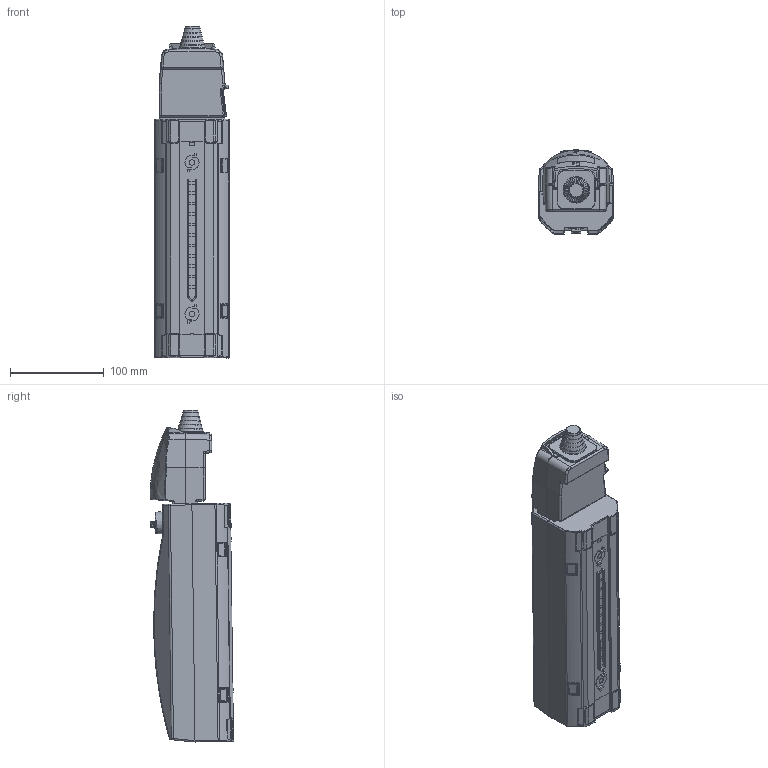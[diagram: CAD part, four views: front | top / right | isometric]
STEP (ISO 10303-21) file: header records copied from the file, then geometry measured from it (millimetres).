
FILE_DESCRIPTION(/* description */ ('Unknown'),/* implementation_level */ '2;1');
FILE_NAME(/* name */ 'OVL',/* time_stamp */ '2026-08-17T10:07:18+02:00',/* author */ ('Unknown'),/* organization */ ('Unknown'),/* preprocessor_version */ 'ST-DEVELOPER v20',/* originating_system */ 'Solid Edge',/* authorisation */ 'Unknown');
FILE_SCHEMA (('CONFIG_CONTROL_DESIGN'));
Products named in the file (7): OVL; Stekker bovenkant 2 dicht; bak smal cover_04 dicht_0; bak smal onder 2_07 dicht_0; invoerrubber dicht_0; knop dummy_0
Assembly tree (6 placements, depth 2):
  OVL
    OVL
    Stekker bovenkant 2 dicht
    bak smal cover_04 dicht_0
    bak smal onder 2_07 dicht_0
    invoerrubber dicht_0
    knop dummy_0
Bounding box: 80 x 89.43 x 354.71 mm (x, y, z)
Volume: 903305.2 mm3; surface area: 203896.5 mm2
Topology: 6 solids, 6 shells, 2008 faces, 5347 edges, 3416 vertices
Faces by surface type: plane 781, cylinder 655, bspline 318, torus 137, cone 68, sphere 49
Full cylindrical faces by diameter (mm): 19 x1
Entity records: 77861 total; most frequent: CARTESIAN_POINT 32332, ORIENTED_EDGE 10648, DIRECTION 7522, EDGE_CURVE 5324, VERTEX_POINT 3416, AXIS2_PLACEMENT_3D 2575, LINE 2372, VECTOR 2372
